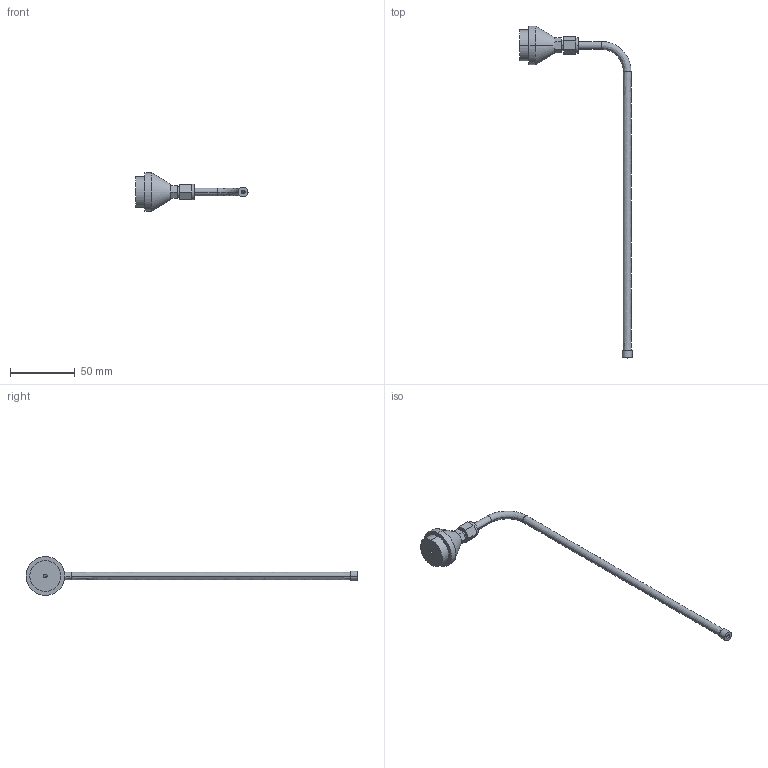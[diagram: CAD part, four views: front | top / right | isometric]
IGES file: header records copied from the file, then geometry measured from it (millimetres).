
Start section: SolidWorks IGES FILE using analytic representation for surfaces
Global section: file name: \\intra-srv04\開発データ\CAD_Data\CAD委員会\3D電子ｶﾀﾛｸﾞ\製品カタログ（新）\0_IGES\ER-AL20.IGS,41HSolidWorks 2004; native system: by SolidWorks Corporation; preprocessor: Version 5.3; author: mf1158; date: 050905.110950; units: millimetre
Bounding box: 86.8 x 257 x 30 mm (x, y, z)
Volume: 19629.6 mm3; surface area: 12023.3 mm2
Topology: 1 solids, 1 shells, 92 faces, 362 edges, 236 vertices
Faces by surface type: revolution 66, plane 26
